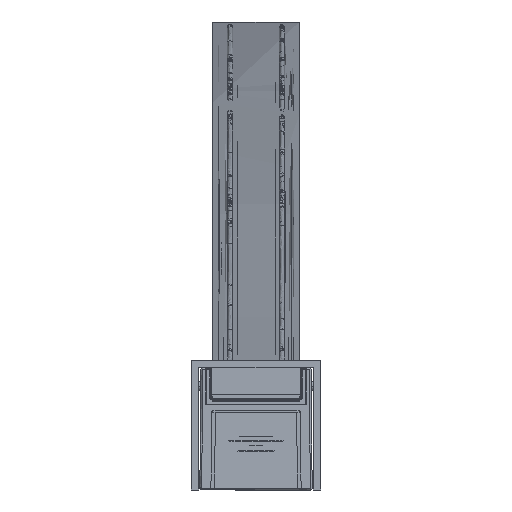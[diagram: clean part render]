
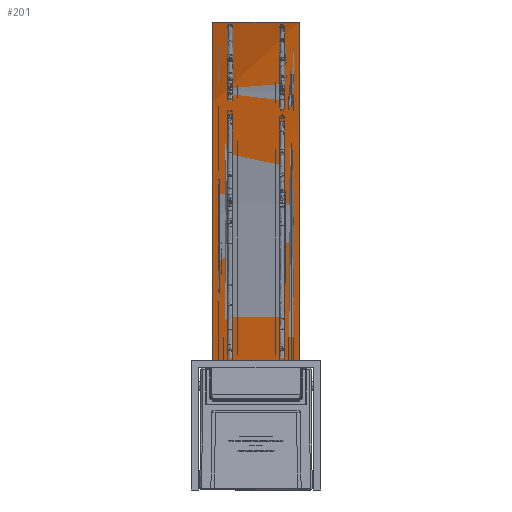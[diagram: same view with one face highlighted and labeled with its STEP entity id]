
A CAD part, front view. The second image highlights one B-rep face of the part: STEP entity #201.
In plain terms, the highlighted free-form (B-spline) face has degree [2, 1] with [3, 2] control points.
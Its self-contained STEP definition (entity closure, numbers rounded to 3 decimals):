
#201=ADVANCED_FACE('',(#1420),#17958,.T.);
#1420=FACE_OUTER_BOUND('',#2639,.T.);
#2639=EDGE_LOOP('',(#4167,#4168,#4169,#4170));
#4167=ORIENTED_EDGE('',*,*,#9982,.T.);
#4168=ORIENTED_EDGE('',*,*,#9867,.T.);
#4169=ORIENTED_EDGE('',*,*,#9983,.T.);
#4170=ORIENTED_EDGE('',*,*,#9984,.T.);
#9867=EDGE_CURVE('',#15802,#15800,#12825,.T.);
#9982=EDGE_CURVE('',#15877,#15802,#14427,.T.);
#9983=EDGE_CURVE('',#15800,#15878,#14428,.T.);
#9984=EDGE_CURVE('',#15878,#15877,#12915,.T.);
#12825=B_SPLINE_CURVE_WITH_KNOTS('',1,(#22873,#22874),.UNSPECIFIED.,.F.,
 .F.,(2,2),(-23.4,0.),.UNSPECIFIED.);
#12915=B_SPLINE_CURVE_WITH_KNOTS('',1,(#23524,#23525),.UNSPECIFIED.,.F.,
 .F.,(2,2),(0.,23.4),.UNSPECIFIED.);
#14427=(
BOUNDED_CURVE()
B_SPLINE_CURVE(2,(#23518,#23519,#23520),.UNSPECIFIED.,.F.,.F.)
B_SPLINE_CURVE_WITH_KNOTS((3,3),(0.,3000.),.UNSPECIFIED.)
CURVE()
GEOMETRIC_REPRESENTATION_ITEM()
RATIONAL_B_SPLINE_CURVE((1.,0.992,1.))
REPRESENTATION_ITEM('')
);
#14428=(
BOUNDED_CURVE()
B_SPLINE_CURVE(2,(#23521,#23522,#23523),.UNSPECIFIED.,.F.,.F.)
B_SPLINE_CURVE_WITH_KNOTS((3,3),(0.,3000.),.UNSPECIFIED.)
CURVE()
GEOMETRIC_REPRESENTATION_ITEM()
RATIONAL_B_SPLINE_CURVE((1.,0.992,1.))
REPRESENTATION_ITEM('')
);
#15800=VERTEX_POINT('',#22551);
#15802=VERTEX_POINT('',#22553);
#15877=VERTEX_POINT('',#22628);
#15878=VERTEX_POINT('',#22629);
#17958=(
BOUNDED_SURFACE()
B_SPLINE_SURFACE(2,1,((#21237,#21238),(#21239,#21240),(#21241,#21242)),
 .UNSPECIFIED.,.F.,.F.,.F.)
B_SPLINE_SURFACE_WITH_KNOTS((3,3),(2,2),(0.,3021.857),(0.,28.08),
 .UNSPECIFIED.)
GEOMETRIC_REPRESENTATION_ITEM()
RATIONAL_B_SPLINE_SURFACE(((1.,1.),(0.992,0.992),
(1.,1.)))
REPRESENTATION_ITEM('')
SURFACE()
);
#21237=CARTESIAN_POINT('',(-14.04,1499.092,32.623));
#21238=CARTESIAN_POINT('',(14.04,1499.092,32.623));
#21239=CARTESIAN_POINT('',(-14.04,0.,221.375));
#21240=CARTESIAN_POINT('',(14.04,0.,221.375));
#21241=CARTESIAN_POINT('',(-14.04,-1499.092,32.623));
#21242=CARTESIAN_POINT('',(14.04,-1499.092,32.623));
#22551=CARTESIAN_POINT('',(-11.7,1496.097,33.));
#22553=CARTESIAN_POINT('',(11.7,1496.097,33.));
#22628=CARTESIAN_POINT('',(11.7,-1496.097,33.));
#22629=CARTESIAN_POINT('',(-11.7,-1496.097,33.));
#22873=CARTESIAN_POINT('',(11.7,1496.097,33.));
#22874=CARTESIAN_POINT('',(-11.7,1496.097,33.));
#23518=CARTESIAN_POINT('',(11.7,-1496.097,33.));
#23519=CARTESIAN_POINT('',(11.7,0.,220.992));
#23520=CARTESIAN_POINT('',(11.7,1496.097,33.));
#23521=CARTESIAN_POINT('',(-11.7,1496.097,33.));
#23522=CARTESIAN_POINT('',(-11.7,0.,220.992));
#23523=CARTESIAN_POINT('',(-11.7,-1496.097,33.));
#23524=CARTESIAN_POINT('',(-11.7,-1496.097,33.));
#23525=CARTESIAN_POINT('',(11.7,-1496.097,33.));
